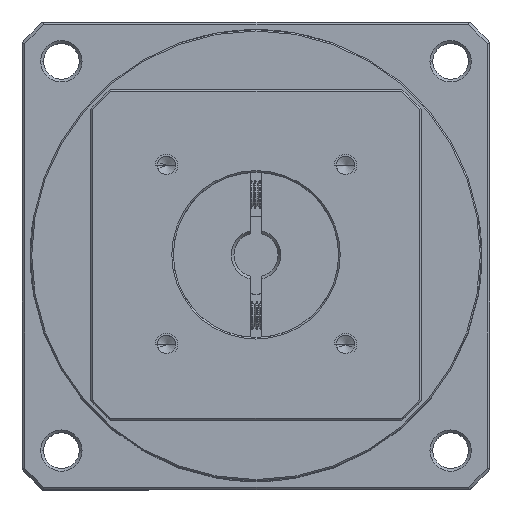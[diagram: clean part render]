
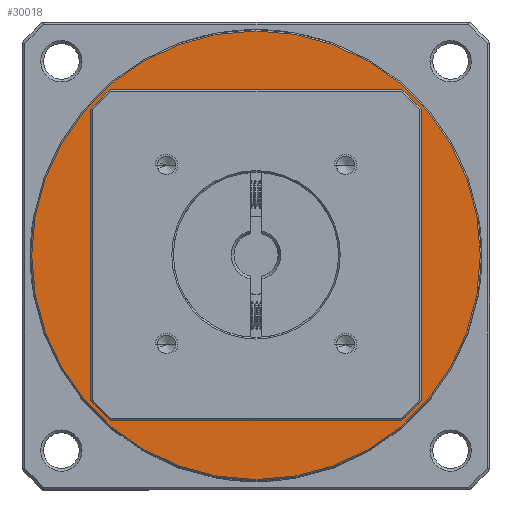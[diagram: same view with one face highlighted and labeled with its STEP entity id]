
A CAD part, top view. The second image highlights one B-rep face of the part: STEP entity #30018.
In plain terms, the highlighted planar face has unit normal (0, 0, 1).
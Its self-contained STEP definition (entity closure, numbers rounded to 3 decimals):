
#454 = ORIENTED_EDGE ( 'NONE', *, *, #52097, .F. ) ;
#1305 = PLANE ( 'NONE',  #13733 ) ;
#4679 = AXIS2_PLACEMENT_3D ( 'NONE', #108218, #118029, #69410 ) ;
#6126 = CIRCLE ( 'NONE', #66459, 30. ) ;
#11079 = CARTESIAN_POINT ( 'NONE',  ( -76.692, 55.161, -50.786 ) ) ;
#12427 = DIRECTION ( 'NONE',  ( 1., 0., 0. ) ) ;
#13733 = AXIS2_PLACEMENT_3D ( 'NONE', #109007, #41359, #12427 ) ;
#16090 = EDGE_LOOP ( 'NONE', ( #117080, #454 ) ) ;
#26930 = VERTEX_POINT ( 'NONE', #80072 ) ;
#27216 = CARTESIAN_POINT ( 'NONE',  ( -35.942, 55.161, -50.786 ) ) ;
#30018 = ADVANCED_FACE ( 'NONE', ( #34335, #44952 ), #1305, .T. ) ;
#31121 = DIRECTION ( 'NONE',  ( 1., 0., 0. ) ) ;
#34335 = FACE_BOUND ( 'NONE', #16090, .T. ) ;
#37508 = DIRECTION ( 'NONE',  ( 0., 0., 1. ) ) ;
#41359 = DIRECTION ( 'NONE',  ( 0., 0., 1. ) ) ;
#44952 = FACE_OUTER_BOUND ( 'NONE', #45156, .T. ) ;
#45156 = EDGE_LOOP ( 'NONE', ( #57181, #117258 ) ) ;
#46355 = EDGE_CURVE ( 'NONE', #26930, #119861, #93790, .T. ) ;
#46536 = EDGE_CURVE ( 'NONE', #121671, #46765, #124365, .T. ) ;
#46765 = VERTEX_POINT ( 'NONE', #27216 ) ;
#52097 = EDGE_CURVE ( 'NONE', #119861, #26930, #6126, .T. ) ;
#56631 = DIRECTION ( 'NONE',  ( 1., 0., 0. ) ) ;
#57181 = ORIENTED_EDGE ( 'NONE', *, *, #46536, .T. ) ;
#62930 = CARTESIAN_POINT ( 'NONE',  ( -46.692, 55.161, -50.786 ) ) ;
#63709 = CARTESIAN_POINT ( 'NONE',  ( -117.442, 55.161, -50.786 ) ) ;
#66459 = AXIS2_PLACEMENT_3D ( 'NONE', #85512, #37508, #56631 ) ;
#69410 = DIRECTION ( 'NONE',  ( 1., 0., 0. ) ) ;
#69630 = AXIS2_PLACEMENT_3D ( 'NONE', #11079, #97838, #97422 ) ;
#74807 = EDGE_CURVE ( 'NONE', #46765, #121671, #103941, .T. ) ;
#80072 = CARTESIAN_POINT ( 'NONE',  ( -106.692, 55.161, -50.786 ) ) ;
#85512 = CARTESIAN_POINT ( 'NONE',  ( -76.692, 55.161, -50.786 ) ) ;
#89282 = DIRECTION ( 'NONE',  ( 0., 0., 1. ) ) ;
#93267 = AXIS2_PLACEMENT_3D ( 'NONE', #118758, #89282, #31121 ) ;
#93790 = CIRCLE ( 'NONE', #69630, 30. ) ;
#97422 = DIRECTION ( 'NONE',  ( 1., 0., 0. ) ) ;
#97838 = DIRECTION ( 'NONE',  ( 0., 0., 1. ) ) ;
#103941 = CIRCLE ( 'NONE', #4679, 40.75 ) ;
#108218 = CARTESIAN_POINT ( 'NONE',  ( -76.692, 55.161, -50.786 ) ) ;
#109007 = CARTESIAN_POINT ( 'NONE',  ( -76.692, 55.161, -50.786 ) ) ;
#117080 = ORIENTED_EDGE ( 'NONE', *, *, #46355, .F. ) ;
#117258 = ORIENTED_EDGE ( 'NONE', *, *, #74807, .T. ) ;
#118029 = DIRECTION ( 'NONE',  ( 0., 0., 1. ) ) ;
#118758 = CARTESIAN_POINT ( 'NONE',  ( -76.692, 55.161, -50.786 ) ) ;
#119861 = VERTEX_POINT ( 'NONE', #62930 ) ;
#121671 = VERTEX_POINT ( 'NONE', #63709 ) ;
#124365 = CIRCLE ( 'NONE', #93267, 40.75 ) ;
